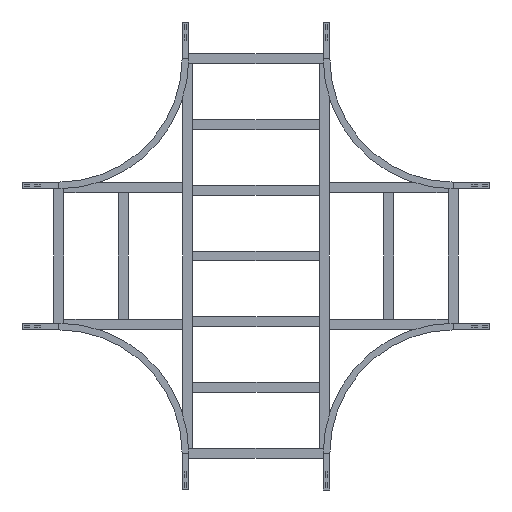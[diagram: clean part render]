
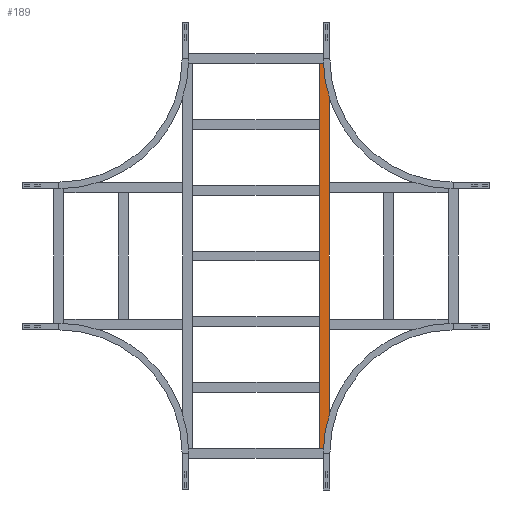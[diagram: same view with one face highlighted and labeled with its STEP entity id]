
A CAD part, front view. The second image highlights one B-rep face of the part: STEP entity #189.
In plain terms, the highlighted planar face has unit normal (0, -1, 0).
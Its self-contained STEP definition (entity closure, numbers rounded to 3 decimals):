
#96 = ORIENTED_EDGE ( 'NONE', *, *, #1944, .F. ) ;
#160 = VECTOR ( 'NONE', #2857, 1000. ) ;
#189 = ADVANCED_FACE ( 'NONE', ( #1713 ), #2383, .F. ) ;
#191 = VERTEX_POINT ( 'NONE', #2909 ) ;
#362 = AXIS2_PLACEMENT_3D ( 'NONE', #1102, #1992, #2681 ) ;
#409 = ORIENTED_EDGE ( 'NONE', *, *, #2187, .T. ) ;
#447 = CARTESIAN_POINT ( 'NONE',  ( 779.75, 0., -20.25 ) ) ;
#463 = EDGE_CURVE ( 'NONE', #191, #1554, #1048, .T. ) ;
#493 = ORIENTED_EDGE ( 'NONE', *, *, #2639, .F. ) ;
#732 = LINE ( 'NONE', #1644, #1289 ) ;
#892 = CARTESIAN_POINT ( 'NONE',  ( 779.75, 0., 20.25 ) ) ;
#966 = VERTEX_POINT ( 'NONE', #2224 ) ;
#1048 = LINE ( 'NONE', #1953, #160 ) ;
#1102 = CARTESIAN_POINT ( 'NONE',  ( 779.75, 0., 20.25 ) ) ;
#1161 = DIRECTION ( 'NONE',  ( 0., 0., -1. ) ) ;
#1289 = VECTOR ( 'NONE', #1161, 1000. ) ;
#1395 = CARTESIAN_POINT ( 'NONE',  ( -779.75, 0., -20.25 ) ) ;
#1479 = VECTOR ( 'NONE', #2060, 1000. ) ;
#1531 = CARTESIAN_POINT ( 'NONE',  ( 779.75, 0., -20.25 ) ) ;
#1554 = VERTEX_POINT ( 'NONE', #1395 ) ;
#1571 = VERTEX_POINT ( 'NONE', #447 ) ;
#1644 = CARTESIAN_POINT ( 'NONE',  ( 779.75, 0., 20.25 ) ) ;
#1713 = FACE_OUTER_BOUND ( 'NONE', #2378, .T. ) ;
#1730 = ORIENTED_EDGE ( 'NONE', *, *, #463, .T. ) ;
#1770 = LINE ( 'NONE', #1531, #2704 ) ;
#1806 = DIRECTION ( 'NONE',  ( -1., 0., 0. ) ) ;
#1944 = EDGE_CURVE ( 'NONE', #1571, #1554, #1770, .T. ) ;
#1953 = CARTESIAN_POINT ( 'NONE',  ( -779.75, 0., 20.25 ) ) ;
#1992 = DIRECTION ( 'NONE',  ( 0., 1., 0. ) ) ;
#2060 = DIRECTION ( 'NONE',  ( -1., 0., 0. ) ) ;
#2187 = EDGE_CURVE ( 'NONE', #966, #191, #2235, .T. ) ;
#2224 = CARTESIAN_POINT ( 'NONE',  ( 779.75, 0., 20.25 ) ) ;
#2235 = LINE ( 'NONE', #892, #1479 ) ;
#2378 = EDGE_LOOP ( 'NONE', ( #1730, #96, #493, #409 ) ) ;
#2383 = PLANE ( 'NONE',  #362 ) ;
#2639 = EDGE_CURVE ( 'NONE', #966, #1571, #732, .T. ) ;
#2681 = DIRECTION ( 'NONE',  ( 0., 0., 1. ) ) ;
#2704 = VECTOR ( 'NONE', #1806, 1000. ) ;
#2857 = DIRECTION ( 'NONE',  ( 0., 0., -1. ) ) ;
#2909 = CARTESIAN_POINT ( 'NONE',  ( -779.75, 0., 20.25 ) ) ;
